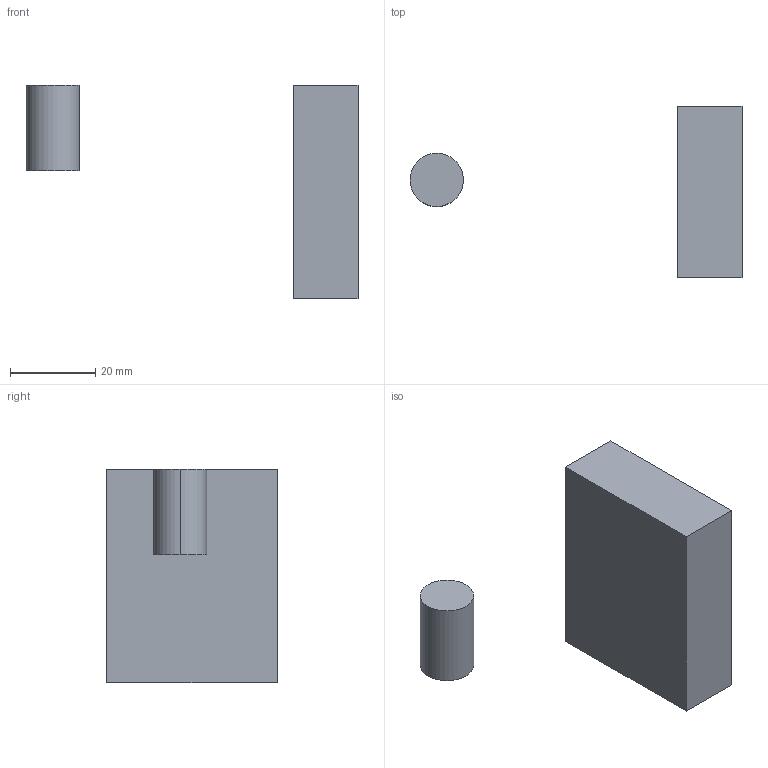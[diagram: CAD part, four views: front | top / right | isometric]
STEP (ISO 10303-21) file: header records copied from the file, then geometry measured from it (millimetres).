
FILE_DESCRIPTION (( 'STEP AP203' ), '1' );
FILE_NAME ('REF_tx_rear_clearances.step', '2026-10-06T17:27:38', ( '' ), ( '' ), 'SwSTEP 2.0', 'SolidWorks 2025', '' );
FILE_SCHEMA (( 'CONFIG_CONTROL_DESIGN' ));
Length unit declared in the file: millimetre
Products named in the file (1): REF_tx_rear_clearances
Bounding box: 77.76 x 40 x 50 mm (x, y, z)
Volume: 32454.4 mm3; surface area: 7730.8 mm2
Topology: 2 solids, 2 shells, 10 faces, 18 edges, 12 vertices
Faces by surface type: plane 8, cylinder 2
Entity records: 321 total; most frequent: DIRECTION 44, CARTESIAN_POINT 41, ORIENTED_EDGE 36, EDGE_CURVE 18, AXIS2_PLACEMENT_3D 15, LINE 14, VECTOR 14, VERTEX_POINT 12
